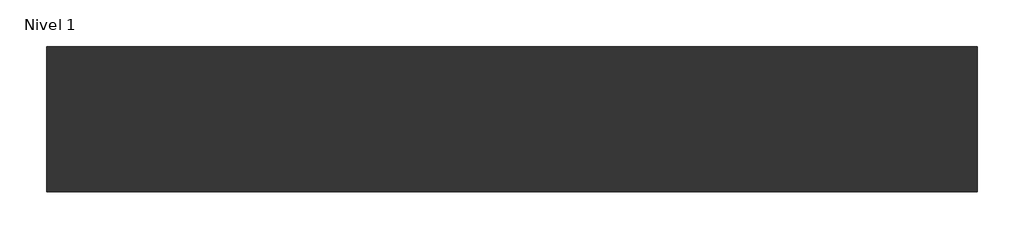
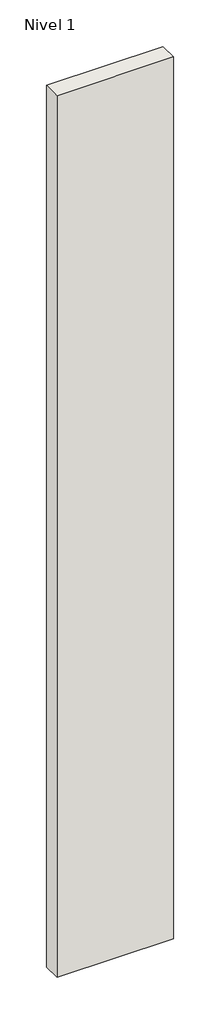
# One storey: 1 wall.
"""IFC4 building model written with IfcOpenShell, lengths in millimetres."""

import ifcopenshell
import ifcopenshell.guid

model = None  # the IFC model being written
_history = None  # IfcOwnerHistory: only IFC2X3 demands one
_inside = {}  # id of a spatial element -> (the spatial element, [elements in it])
_under = {}  # id of a project, library or spatial element -> (it, [spatial elements below it])
_declared = {}  # id of a project -> (the project, [libraries it declares])
_typed = {}  # id of a type object -> (the type object, [elements of that type])
_made_of = {}  # id of a material, layer set ... -> (it, [elements and type objects made of it])


def new_model(schema):
    """Start an empty IFC model of exactly this schema.

    Asked for "IFC4X3", IfcOpenShell would pick the latest addendum, in which some entities
    have other attributes; the version numbers below select the first issue.
    IFC2X3 requires an IfcOwnerHistory on every rooted entity: one is made here for all.
    """
    global model, _history
    if schema == "IFC4X3":
        model = ifcopenshell.file(schema_version=(4, 3, 0, 0))
    else:
        model = ifcopenshell.file(schema=schema)
    _inside.clear()
    _under.clear()
    _declared.clear()
    _typed.clear()
    _made_of.clear()
    _history = None
    if model.schema == "IFC2X3":
        org = make("IfcOrganization", Name="unknown")
        user = make(
            "IfcPersonAndOrganization",
            ThePerson=make("IfcPerson", FamilyName="unknown"),
            TheOrganization=org,
        )
        app = make(
            "IfcApplication",
            ApplicationDeveloper=org,
            Version="unknown",
            ApplicationFullName="unknown",
            ApplicationIdentifier="unknown",
        )
        _history = make(
            "IfcOwnerHistory",
            OwningUser=user,
            OwningApplication=app,
            ChangeAction="ADDED",
            CreationDate=0,
        )
    return model


def make(cls, **values):
    """One entity of the class cls with the attributes given. An attribute that is None is left unset."""
    return model.create_entity(
        cls, **{name: value for name, value in values.items() if value is not None}
    )


def rooted(cls, **values):
    """An entity with a GlobalId (a new one), such as an element, a storey or a relation."""
    return make(cls, GlobalId=ifcopenshell.guid.new(), OwnerHistory=_history, **values)


def si_unit(unit_type, name, prefix=None):
    """IfcSIUnit, for example si_unit("LENGTHUNIT", "METRE", prefix="MILLI")."""
    return make("IfcSIUnit", UnitType=unit_type, Prefix=prefix, Name=name)


def assignment(units):
    """IfcUnitAssignment: the units of a project."""
    return None if units is None else make("IfcUnitAssignment", Units=units)


def point(xyz):
    """IfcCartesianPoint."""
    return None if xyz is None else make("IfcCartesianPoint", Coordinates=xyz)


def direction(xyz):
    """IfcDirection."""
    return None if xyz is None else make("IfcDirection", DirectionRatios=xyz)


def frame(location, z_axis=None, x_axis=None):
    """IfcAxis2Placement3D, a coordinate frame: its origin and axes. An axis left out is left unset."""
    return make(
        "IfcAxis2Placement3D",
        Location=point(location),
        Axis=direction(z_axis),
        RefDirection=direction(x_axis),
    )


def origin():
    """The frame at (0, 0, 0) with its axes left unset."""
    return frame((0.0, 0.0, 0.0))


def origin_with_axes():
    """The frame at (0, 0, 0) with the z axis (0, 0, 1) and the x axis (1, 0, 0) written out."""
    return frame((0.0, 0.0, 0.0), z_axis=(0.0, 0.0, 1.0), x_axis=(1.0, 0.0, 0.0))


def place(relative_to, where):
    """IfcLocalPlacement: puts the frame where relative to a parent placement (None: the world)."""
    return make(
        "IfcLocalPlacement", PlacementRelTo=relative_to, RelativePlacement=where
    )


def context(
    kind, dimensions, precision=None, world=None, true_north=None, identifier=None
):
    """IfcGeometricRepresentationContext, for example the 3D "Model" context."""
    return make(
        "IfcGeometricRepresentationContext",
        ContextIdentifier=identifier,
        ContextType=kind,
        CoordinateSpaceDimension=dimensions,
        Precision=precision,
        WorldCoordinateSystem=world,
        TrueNorth=true_north,
    )


def project(units=None, contexts=None):
    """IfcProject with its units and contexts."""
    return rooted(
        "IfcProject",
        Name="project",
        RepresentationContexts=contexts,
        UnitsInContext=assignment(units),
    )


def spatial(cls, under=None, at=None, **own):
    """A site, building, storey or space (cls), placed at a placement, below another one or the project."""
    s = rooted(cls, ObjectPlacement=at, **own)
    if under is not None:
        _under.setdefault(under.id(), (under, []))[1].append(s)
    return s


def polyline(points):
    """IfcPolyline through the points."""
    return make("IfcPolyline", Points=[point(p) for p in points])


def outline(outer, holes=None, kind="AREA"):
    """IfcArbitraryClosedProfileDef: a profile drawn as a closed curve; with holes, ...WithVoids."""
    if holes is None:
        return make("IfcArbitraryClosedProfileDef", ProfileType=kind, OuterCurve=outer)
    return make(
        "IfcArbitraryProfileDefWithVoids",
        ProfileType=kind,
        OuterCurve=outer,
        InnerCurves=holes,
    )


def extrude(swept, where, along, depth):
    """IfcExtrudedAreaSolid: the profile swept, set in the frame where, extruded along a direction by depth."""
    return make(
        "IfcExtrudedAreaSolid",
        SweptArea=swept,
        Position=where,
        ExtrudedDirection=direction(along),
        Depth=depth,
    )


def shape(context_of_items, identifier, shape_type, items):
    """IfcShapeRepresentation: the items that make up one representation, for example the "Body"."""
    return make(
        "IfcShapeRepresentation",
        ContextOfItems=context_of_items,
        RepresentationIdentifier=identifier,
        RepresentationType=shape_type,
        Items=items,
    )


def made_of(thing, what):
    """Note that an element or type object is made of a material, layer set ...; save() writes the relation."""
    if what is not None:
        _made_of.setdefault(what.id(), (what, []))[1].append(thing)
    return thing


def element(
    cls,
    number,
    at=None,
    inside=None,
    cuts=None,
    type_object=None,
    material=None,
    context=None,
    identifier="Body",
    shape_type=None,
    held_by="IfcProductDefinitionShape",
    body=None,
    shapes=None,
    **own,
):
    """One element of the class cls, such as IfcWall. Its Tag is "e" and its number.

    at: its placement. inside: the storey or other place that contains it. cuts: it is an
    opening in that element (IfcRelVoidsElement). A single representation is given by context,
    identifier, shape_type and body (its items); several are given by shapes. held_by: the class
    of the entity that holds the representations. save() writes the other relations.
    """
    e = rooted(cls, Tag="e%d" % number, ObjectPlacement=at, **own)
    if body is not None:
        shapes = [shape(context, identifier, shape_type, body)]
    if shapes is not None:
        e.Representation = make(held_by, Representations=shapes)
    if inside is not None:
        _inside.setdefault(inside.id(), (inside, []))[1].append(e)
    if cuts is not None:
        rooted(
            "IfcRelVoidsElement", RelatingBuildingElement=cuts, RelatedOpeningElement=e
        )
    if type_object is not None:
        _typed.setdefault(type_object.id(), (type_object, []))[1].append(e)
    return made_of(e, material)


def aggregate(whole, parts):
    """IfcRelAggregates: a whole, such as a stair, and the parts it consists of."""
    return rooted("IfcRelAggregates", RelatingObject=whole, RelatedObjects=parts)


def save(model, path):
    """Write the relations noted so far, then the file.

    IfcRelAggregates (storeys below a building ...), IfcRelContainedInSpatialStructure (elements
    in a storey), IfcRelDefinesByType, IfcRelAssociatesMaterial and IfcRelDeclares: one each for
    every whole, place, type object, material and project.
    """
    for whole, parts in _under.values():
        aggregate(whole, parts)
    for where, things in _inside.values():
        rooted(
            "IfcRelContainedInSpatialStructure",
            RelatedElements=things,
            RelatingStructure=where,
        )
    for kind, things in _typed.values():
        rooted("IfcRelDefinesByType", RelatedObjects=things, RelatingType=kind)
    for what, things in _made_of.values():
        rooted("IfcRelAssociatesMaterial", RelatedObjects=things, RelatingMaterial=what)
    for by, libraries in _declared.values():
        rooted("IfcRelDeclares", RelatingContext=by, RelatedDefinitions=libraries)
    model.write(path)


model = new_model("IFC4")

# Units and contexts
model_context = context("Model", 3, world=origin())
ifc_project = project(units=[si_unit("LENGTHUNIT", "METRE", prefix="MILLI")], contexts=[model_context])

# Site, building, storey
site = spatial("IfcSite", under=ifc_project)
building = spatial("IfcBuilding", under=site)
storey = spatial("IfcBuildingStorey", under=building, Name="Nivel 1", Elevation=0.0)

# Wall
placement = place(None, origin())
element("IfcWall", 1, ObjectType="Tabique múltiple de estructura doble - Sistema D03", at=placement, inside=storey, context=model_context, shape_type="SweptSolid", body=[
    extrude(outline(polyline([(-3436.220018, -2892.1024758), (-4436.220018, -2892.1024758), (-4436.220018, -2736.1024758), (-3436.220018, -2736.1024758), (-3436.220018, -2892.1024758)])), origin_with_axes(), (0.0, 0.0, 1.0), 8000.0),
])

save(model, "model.ifc")
